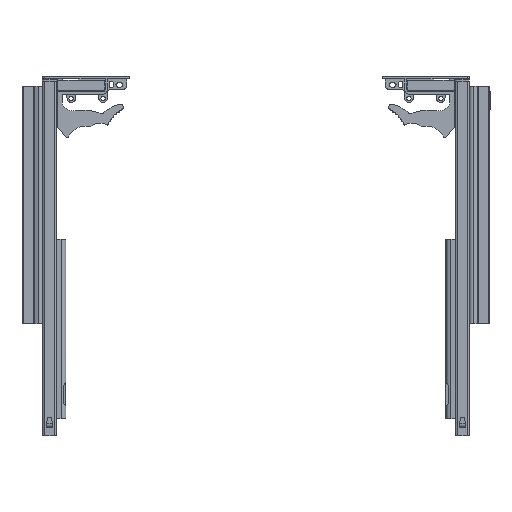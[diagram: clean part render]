
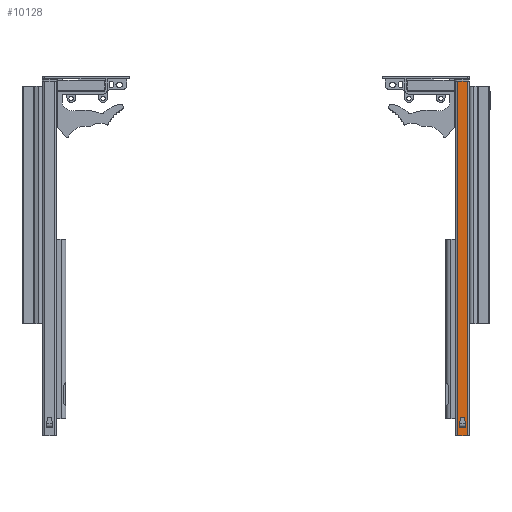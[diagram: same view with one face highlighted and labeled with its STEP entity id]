
A CAD part, front view. The second image highlights one B-rep face of the part: STEP entity #10128.
In plain terms, the highlighted planar face has unit normal (0, -1, 0).
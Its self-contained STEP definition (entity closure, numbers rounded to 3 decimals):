
#221=FACE_BOUND('',#1385,.T.);
#715=FACE_OUTER_BOUND('',#1384,.T.);
#1384=EDGE_LOOP('',(#7781,#7782,#7783,#7784));
#1385=EDGE_LOOP('',(#7785,#7786,#7787,#7788));
#2131=LINE('',#15694,#3123);
#2135=LINE('',#15701,#3127);
#2138=LINE('',#15733,#3130);
#2140=LINE('',#15739,#3132);
#2171=LINE('',#15826,#3163);
#2172=LINE('',#15829,#3164);
#2173=LINE('',#15831,#3165);
#2174=LINE('',#15832,#3166);
#3123=VECTOR('',#12689,10.);
#3127=VECTOR('',#12695,10.);
#3130=VECTOR('',#12700,10.);
#3132=VECTOR('',#12710,10.);
#3163=VECTOR('',#12793,10.);
#3164=VECTOR('',#12796,10.);
#3165=VECTOR('',#12797,10.);
#3166=VECTOR('',#12798,10.);
#4534=VERTEX_POINT('',#15691);
#4535=VERTEX_POINT('',#15693);
#4537=VERTEX_POINT('',#15699);
#4538=VERTEX_POINT('',#15731);
#4567=VERTEX_POINT('',#15822);
#4568=VERTEX_POINT('',#15824);
#4569=VERTEX_POINT('',#15828);
#4570=VERTEX_POINT('',#15830);
#5672=EDGE_CURVE('',#4535,#4534,#2131,.T.);
#5676=EDGE_CURVE('',#4534,#4537,#2135,.T.);
#5680=EDGE_CURVE('',#4537,#4538,#2138,.T.);
#5682=EDGE_CURVE('',#4538,#4535,#2140,.T.);
#5725=EDGE_CURVE('',#4567,#4568,#2171,.T.);
#5726=EDGE_CURVE('',#4567,#4569,#2172,.T.);
#5727=EDGE_CURVE('',#4570,#4568,#2173,.T.);
#5728=EDGE_CURVE('',#4569,#4570,#2174,.T.);
#7781=ORIENTED_EDGE('',*,*,#5726,.F.);
#7782=ORIENTED_EDGE('',*,*,#5725,.T.);
#7783=ORIENTED_EDGE('',*,*,#5727,.F.);
#7784=ORIENTED_EDGE('',*,*,#5728,.F.);
#7785=ORIENTED_EDGE('',*,*,#5672,.T.);
#7786=ORIENTED_EDGE('',*,*,#5676,.T.);
#7787=ORIENTED_EDGE('',*,*,#5680,.T.);
#7788=ORIENTED_EDGE('',*,*,#5682,.T.);
#9428=PLANE('',#10919);
#10128=ADVANCED_FACE('',(#715,#221),#9428,.T.);
#10919=AXIS2_PLACEMENT_3D('',#15827,#12794,#12795);
#12689=DIRECTION('',(0.,0.,-1.));
#12695=DIRECTION('',(-1.,0.,0.));
#12700=DIRECTION('',(0.,0.,1.));
#12710=DIRECTION('',(1.,0.,0.));
#12793=DIRECTION('',(0.,0.,-1.));
#12794=DIRECTION('center_axis',(0.,-1.,0.));
#12795=DIRECTION('ref_axis',(-1.,0.,0.));
#12796=DIRECTION('',(1.,0.,0.));
#12797=DIRECTION('',(-1.,0.,0.));
#12798=DIRECTION('',(0.,0.,-1.));
#15691=CARTESIAN_POINT('',(30.652,8.,-238.597));
#15693=CARTESIAN_POINT('',(30.652,8.,-237.097));
#15694=CARTESIAN_POINT('',(30.652,8.,-64.597));
#15699=CARTESIAN_POINT('',(24.034,8.,-238.597));
#15701=CARTESIAN_POINT('',(29.843,8.,-238.597));
#15731=CARTESIAN_POINT('',(24.034,8.,-237.097));
#15733=CARTESIAN_POINT('',(24.034,8.,-64.597));
#15739=CARTESIAN_POINT('',(29.843,8.,-237.097));
#15822=CARTESIAN_POINT('',(22.343,8.,107.903));
#15824=CARTESIAN_POINT('',(22.343,8.,-247.097));
#15826=CARTESIAN_POINT('',(22.343,8.,107.903));
#15827=CARTESIAN_POINT('Origin',(32.343,8.,107.903));
#15828=CARTESIAN_POINT('',(32.343,8.,107.903));
#15829=CARTESIAN_POINT('',(22.343,8.,107.903));
#15830=CARTESIAN_POINT('',(32.343,8.,-247.097));
#15831=CARTESIAN_POINT('',(22.343,8.,-247.097));
#15832=CARTESIAN_POINT('',(32.343,8.,107.903));
